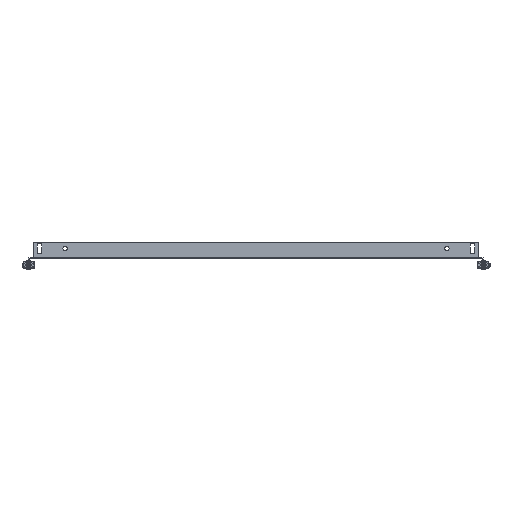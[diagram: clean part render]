
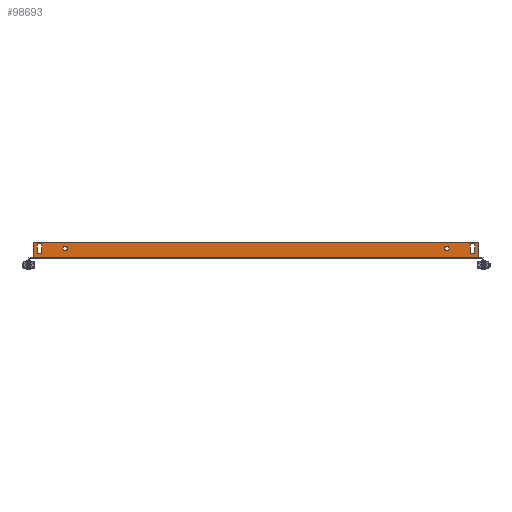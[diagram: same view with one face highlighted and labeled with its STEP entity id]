
A CAD part, front view. The second image highlights one B-rep face of the part: STEP entity #98693.
In plain terms, the highlighted planar face has unit normal (0, -1, 0).
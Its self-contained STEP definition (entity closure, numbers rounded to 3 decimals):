
#88572 = VERTEX_POINT('',#88573);
#88573 = CARTESIAN_POINT('',(342.,-284.5,0.));
#88579 = EDGE_CURVE('',#88580,#88572,#88582,.T.);
#88580 = VERTEX_POINT('',#88581);
#88581 = CARTESIAN_POINT('',(-342.,-284.5,0.));
#88582 = LINE('',#88583,#88584);
#88583 = CARTESIAN_POINT('',(-342.,-284.5,0.));
#88584 = VECTOR('',#88585,1.);
#88585 = DIRECTION('',(1.,-0.,-0.));
#98572 = VERTEX_POINT('',#98573);
#98573 = CARTESIAN_POINT('',(-342.,-284.5,2.6));
#98588 = EDGE_CURVE('',#98572,#88580,#98589,.T.);
#98589 = LINE('',#98590,#98591);
#98590 = CARTESIAN_POINT('',(-342.,-284.5,2.6));
#98591 = VECTOR('',#98592,1.);
#98592 = DIRECTION('',(0.,0.,-1.));
#98612 = VERTEX_POINT('',#98613);
#98613 = CARTESIAN_POINT('',(342.,-284.5,2.6));
#98619 = EDGE_CURVE('',#98612,#88572,#98620,.T.);
#98620 = LINE('',#98621,#98622);
#98621 = CARTESIAN_POINT('',(342.,-284.5,2.));
#98622 = VECTOR('',#98623,1.);
#98623 = DIRECTION('',(-0.,0.,-1.));
#98645 = VERTEX_POINT('',#98646);
#98646 = CARTESIAN_POINT('',(342.,-284.5,26.));
#98652 = EDGE_CURVE('',#98612,#98645,#98653,.T.);
#98653 = LINE('',#98654,#98655);
#98654 = CARTESIAN_POINT('',(342.,-284.5,26.));
#98655 = VECTOR('',#98656,1.);
#98656 = DIRECTION('',(-0.,0.,1.));
#98667 = EDGE_CURVE('',#98668,#98572,#98670,.T.);
#98668 = VERTEX_POINT('',#98669);
#98669 = CARTESIAN_POINT('',(-342.,-284.5,26.));
#98670 = LINE('',#98671,#98672);
#98671 = CARTESIAN_POINT('',(-342.,-284.5,2.));
#98672 = VECTOR('',#98673,1.);
#98673 = DIRECTION('',(-0.,0.,-1.));
#98693 = ADVANCED_FACE('',(#98694,#98728,#98739,#98750,#98784),#98797,
  .F.);
#98694 = FACE_BOUND('',#98695,.T.);
#98695 = EDGE_LOOP('',(#98696,#98706,#98714,#98722));
#98696 = ORIENTED_EDGE('',*,*,#98697,.F.);
#98697 = EDGE_CURVE('',#98698,#98700,#98702,.T.);
#98698 = VERTEX_POINT('',#98699);
#98699 = CARTESIAN_POINT('',(336.5,-284.5,9.));
#98700 = VERTEX_POINT('',#98701);
#98701 = CARTESIAN_POINT('',(336.5,-284.5,23.));
#98702 = LINE('',#98703,#98704);
#98703 = CARTESIAN_POINT('',(336.5,-284.5,23.));
#98704 = VECTOR('',#98705,1.);
#98705 = DIRECTION('',(-0.,-0.,1.));
#98706 = ORIENTED_EDGE('',*,*,#98707,.F.);
#98707 = EDGE_CURVE('',#98708,#98698,#98710,.T.);
#98708 = VERTEX_POINT('',#98709);
#98709 = CARTESIAN_POINT('',(329.5,-284.5,9.));
#98710 = LINE('',#98711,#98712);
#98711 = CARTESIAN_POINT('',(336.5,-284.5,9.));
#98712 = VECTOR('',#98713,1.);
#98713 = DIRECTION('',(1.,-0.,-0.));
#98714 = ORIENTED_EDGE('',*,*,#98715,.F.);
#98715 = EDGE_CURVE('',#98716,#98708,#98718,.T.);
#98716 = VERTEX_POINT('',#98717);
#98717 = CARTESIAN_POINT('',(329.5,-284.5,23.));
#98718 = LINE('',#98719,#98720);
#98719 = CARTESIAN_POINT('',(329.5,-284.5,9.));
#98720 = VECTOR('',#98721,1.);
#98721 = DIRECTION('',(-0.,-0.,-1.));
#98722 = ORIENTED_EDGE('',*,*,#98723,.F.);
#98723 = EDGE_CURVE('',#98700,#98716,#98724,.T.);
#98724 = LINE('',#98725,#98726);
#98725 = CARTESIAN_POINT('',(329.5,-284.5,23.));
#98726 = VECTOR('',#98727,1.);
#98727 = DIRECTION('',(-1.,-0.,-0.));
#98728 = FACE_BOUND('',#98729,.T.);
#98729 = EDGE_LOOP('',(#98730));
#98730 = ORIENTED_EDGE('',*,*,#98731,.F.);
#98731 = EDGE_CURVE('',#98732,#98732,#98734,.T.);
#98732 = VERTEX_POINT('',#98733);
#98733 = CARTESIAN_POINT('',(293.5,-284.5,19.5));
#98734 = CIRCLE('',#98735,3.5);
#98735 = AXIS2_PLACEMENT_3D('',#98736,#98737,#98738);
#98736 = CARTESIAN_POINT('',(293.5,-284.5,16.));
#98737 = DIRECTION('',(0.,-1.,0.));
#98738 = DIRECTION('',(0.,0.,1.));
#98739 = FACE_BOUND('',#98740,.T.);
#98740 = EDGE_LOOP('',(#98741));
#98741 = ORIENTED_EDGE('',*,*,#98742,.F.);
#98742 = EDGE_CURVE('',#98743,#98743,#98745,.T.);
#98743 = VERTEX_POINT('',#98744);
#98744 = CARTESIAN_POINT('',(-293.5,-284.5,12.5));
#98745 = CIRCLE('',#98746,3.5);
#98746 = AXIS2_PLACEMENT_3D('',#98747,#98748,#98749);
#98747 = CARTESIAN_POINT('',(-293.5,-284.5,16.));
#98748 = DIRECTION('',(0.,-1.,0.));
#98749 = DIRECTION('',(0.,0.,-1.));
#98750 = FACE_BOUND('',#98751,.T.);
#98751 = EDGE_LOOP('',(#98752,#98762,#98770,#98778));
#98752 = ORIENTED_EDGE('',*,*,#98753,.F.);
#98753 = EDGE_CURVE('',#98754,#98756,#98758,.T.);
#98754 = VERTEX_POINT('',#98755);
#98755 = CARTESIAN_POINT('',(-336.5,-284.5,23.));
#98756 = VERTEX_POINT('',#98757);
#98757 = CARTESIAN_POINT('',(-336.5,-284.5,9.));
#98758 = LINE('',#98759,#98760);
#98759 = CARTESIAN_POINT('',(-336.5,-284.5,9.));
#98760 = VECTOR('',#98761,1.);
#98761 = DIRECTION('',(-0.,-0.,-1.));
#98762 = ORIENTED_EDGE('',*,*,#98763,.F.);
#98763 = EDGE_CURVE('',#98764,#98754,#98766,.T.);
#98764 = VERTEX_POINT('',#98765);
#98765 = CARTESIAN_POINT('',(-329.5,-284.5,23.));
#98766 = LINE('',#98767,#98768);
#98767 = CARTESIAN_POINT('',(-336.5,-284.5,23.));
#98768 = VECTOR('',#98769,1.);
#98769 = DIRECTION('',(-1.,-0.,-0.));
#98770 = ORIENTED_EDGE('',*,*,#98771,.F.);
#98771 = EDGE_CURVE('',#98772,#98764,#98774,.T.);
#98772 = VERTEX_POINT('',#98773);
#98773 = CARTESIAN_POINT('',(-329.5,-284.5,9.));
#98774 = LINE('',#98775,#98776);
#98775 = CARTESIAN_POINT('',(-329.5,-284.5,23.));
#98776 = VECTOR('',#98777,1.);
#98777 = DIRECTION('',(-0.,-0.,1.));
#98778 = ORIENTED_EDGE('',*,*,#98779,.F.);
#98779 = EDGE_CURVE('',#98756,#98772,#98780,.T.);
#98780 = LINE('',#98781,#98782);
#98781 = CARTESIAN_POINT('',(-329.5,-284.5,9.));
#98782 = VECTOR('',#98783,1.);
#98783 = DIRECTION('',(1.,-0.,-0.));
#98784 = FACE_BOUND('',#98785,.T.);
#98785 = EDGE_LOOP('',(#98786,#98787,#98788,#98789,#98790,#98791));
#98786 = ORIENTED_EDGE('',*,*,#98667,.T.);
#98787 = ORIENTED_EDGE('',*,*,#98588,.T.);
#98788 = ORIENTED_EDGE('',*,*,#88579,.T.);
#98789 = ORIENTED_EDGE('',*,*,#98619,.F.);
#98790 = ORIENTED_EDGE('',*,*,#98652,.T.);
#98791 = ORIENTED_EDGE('',*,*,#98792,.T.);
#98792 = EDGE_CURVE('',#98645,#98668,#98793,.T.);
#98793 = LINE('',#98794,#98795);
#98794 = CARTESIAN_POINT('',(-342.,-284.5,26.));
#98795 = VECTOR('',#98796,1.);
#98796 = DIRECTION('',(-1.,-0.,-0.));
#98797 = PLANE('',#98798);
#98798 = AXIS2_PLACEMENT_3D('',#98799,#98800,#98801);
#98799 = CARTESIAN_POINT('',(342.,-284.5,2.));
#98800 = DIRECTION('',(-0.,1.,0.));
#98801 = DIRECTION('',(0.,0.,1.));
